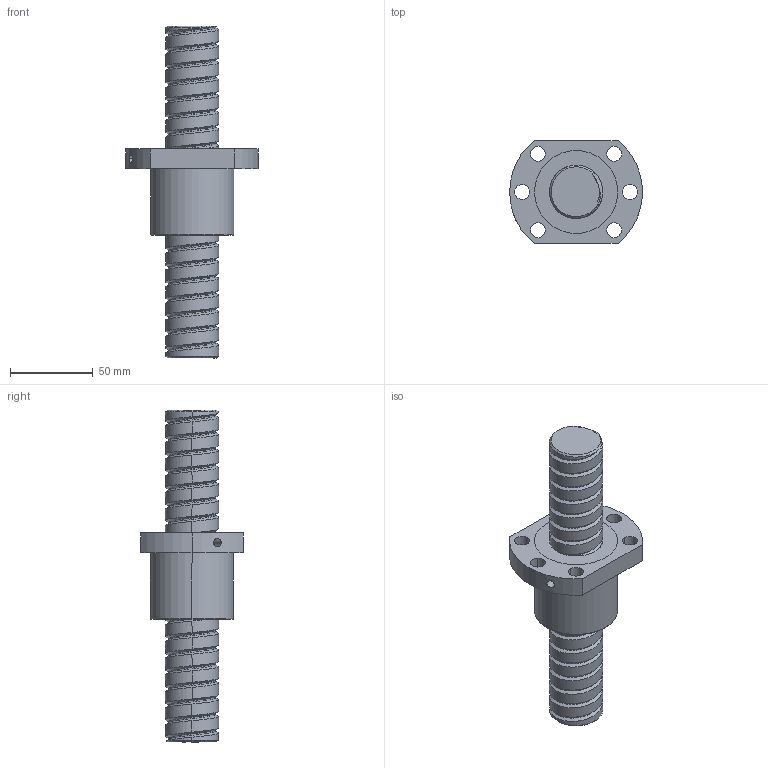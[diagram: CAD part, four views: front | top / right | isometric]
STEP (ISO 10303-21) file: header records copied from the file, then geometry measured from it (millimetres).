
FILE_DESCRIPTION (( 'STEP AP214' ), '1' );
FILE_NAME ('SFU3210-C-SFU3210.STEP', '2025-04-25T13:04:03', ( '' ), ( '' ), 'SwSTEP 2.0', 'SolidWorks 2019', '' );
FILE_SCHEMA (( 'AUTOMOTIVE_DESIGN' ));
Length unit declared in the file: millimetre
Products named in the file (3): C-SFU32; SFU3210; SFU3210-C-SFU3210
Assembly tree (2 placements, depth 2):
  SFU3210-C-SFU3210
    SFU3210
    C-SFU32
Bounding box: 79.87 x 62 x 200 mm (x, y, z)
Volume: 238243.4 mm3; surface area: 54162.3 mm2
Topology: 4 solids, 4 shells, 111 faces, 347 edges, 248 vertices
Faces by surface type: cylinder 88, plane 13, cone 5, bspline 3, torus 2
Entity records: 21103 total; most frequent: CARTESIAN_POINT 18071, ORIENTED_EDGE 694, DIRECTION 510, EDGE_CURVE 347, VERTEX_POINT 248, AXIS2_PLACEMENT_3D 198, EDGE_LOOP 135, LINE 114
